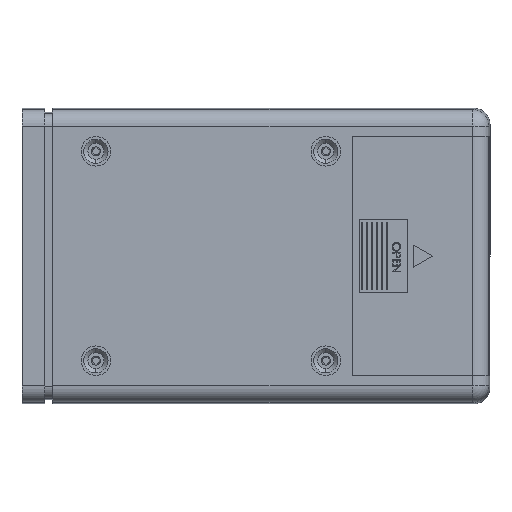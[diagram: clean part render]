
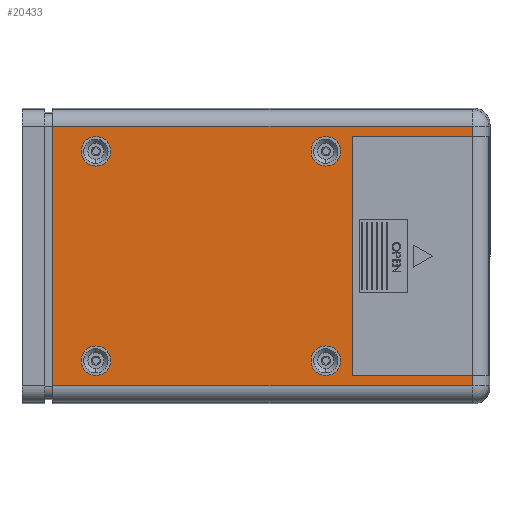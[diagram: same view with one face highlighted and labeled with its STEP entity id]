
A CAD part, front view. The second image highlights one B-rep face of the part: STEP entity #20433.
In plain terms, the highlighted planar face has unit normal (0, -1, 0).
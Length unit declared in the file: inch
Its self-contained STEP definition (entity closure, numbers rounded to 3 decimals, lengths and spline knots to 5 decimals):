
#333 = ORIENTED_EDGE ( 'NONE', *, *, #9301, .F. ) ;
#417 = PLANE ( 'NONE',  #11819 ) ;
#1082 = CARTESIAN_POINT ( 'NONE',  ( 2.07336, -0.66142, 1.24659 ) ) ;
#1308 = FACE_BOUND ( 'NONE', #7007, .T. ) ;
#1413 = ORIENTED_EDGE ( 'NONE', *, *, #1891, .F. ) ;
#1483 = DIRECTION ( 'NONE',  ( 0., -1., 0. ) ) ;
#1677 = VERTEX_POINT ( 'NONE', #3377 ) ;
#1692 = CARTESIAN_POINT ( 'NONE',  ( 0.66929, -0.66142, -1.00394 ) ) ;
#1707 = EDGE_CURVE ( 'NONE', #6757, #1677, #7609, .T. ) ;
#1710 = EDGE_CURVE ( 'NONE', #12059, #4685, #16691, .T. ) ;
#1713 = LINE ( 'NONE', #9296, #20688 ) ;
#1741 = EDGE_CURVE ( 'NONE', #3199, #7045, #21006, .T. ) ;
#1775 = EDGE_CURVE ( 'NONE', #6663, #9970, #15554, .T. ) ;
#1784 = CARTESIAN_POINT ( 'NONE',  ( 0.66929, -0.66142, -1.14567 ) ) ;
#1805 = EDGE_CURVE ( 'NONE', #22562, #20816, #14361, .T. ) ;
#1811 = EDGE_CURVE ( 'NONE', #20816, #12888, #23594, .T. ) ;
#1845 = EDGE_CURVE ( 'NONE', #12888, #21495, #13167, .T. ) ;
#1886 = EDGE_CURVE ( 'NONE', #21495, #14177, #7340, .T. ) ;
#1891 = EDGE_CURVE ( 'NONE', #11664, #14177, #1713, .T. ) ;
#1997 = EDGE_CURVE ( 'NONE', #23829, #11664, #8769, .T. ) ;
#2001 = EDGE_CURVE ( 'NONE', #10120, #23829, #17833, .T. ) ;
#2029 = EDGE_CURVE ( 'NONE', #10120, #22562, #2591, .T. ) ;
#2176 = CARTESIAN_POINT ( 'NONE',  ( -1.94882, -0.66142, -1.24659 ) ) ;
#2357 = DIRECTION ( 'NONE',  ( 0., 1., 0. ) ) ;
#2416 = DIRECTION ( 'NONE',  ( -1., 0., 0. ) ) ;
#2571 = EDGE_CURVE ( 'NONE', #7045, #3199, #12024, .T. ) ;
#2591 = LINE ( 'NONE', #11628, #21579 ) ;
#2721 = DIRECTION ( 'NONE',  ( -1., 0., 0. ) ) ;
#3199 = VERTEX_POINT ( 'NONE', #9543 ) ;
#3377 = CARTESIAN_POINT ( 'NONE',  ( -1.53543, -0.66142, -0.8622 ) ) ;
#3563 = DIRECTION ( 'NONE',  ( 1., 0., 0. ) ) ;
#3604 = AXIS2_PLACEMENT_3D ( 'NONE', #18628, #7770, #20479 ) ;
#3614 = DIRECTION ( 'NONE',  ( 0., 0., -1. ) ) ;
#3803 = VECTOR ( 'NONE', #6204, 39.37008 ) ;
#4050 = CARTESIAN_POINT ( 'NONE',  ( 2.07336, -0.66142, -1.24659 ) ) ;
#4685 = VERTEX_POINT ( 'NONE', #6506 ) ;
#5239 = AXIS2_PLACEMENT_3D ( 'NONE', #1692, #14553, #3614 ) ;
#5681 = CARTESIAN_POINT ( 'NONE',  ( 2.07336, -0.66142, 1.14764 ) ) ;
#5786 = ORIENTED_EDGE ( 'NONE', *, *, #1845, .T. ) ;
#5829 = FACE_OUTER_BOUND ( 'NONE', #19785, .T. ) ;
#6027 = AXIS2_PLACEMENT_3D ( 'NONE', #9125, #21875, #10884 ) ;
#6115 = ORIENTED_EDGE ( 'NONE', *, *, #2571, .F. ) ;
#6204 = DIRECTION ( 'NONE',  ( 0., 0., -1. ) ) ;
#6458 = AXIS2_PLACEMENT_3D ( 'NONE', #9695, #22468, #11471 ) ;
#6494 = CARTESIAN_POINT ( 'NONE',  ( -2.24409, -0.66142, 1.24659 ) ) ;
#6506 = CARTESIAN_POINT ( 'NONE',  ( 0.66929, -0.66142, -0.8622 ) ) ;
#6663 = VERTEX_POINT ( 'NONE', #16014 ) ;
#6757 = VERTEX_POINT ( 'NONE', #23842 ) ;
#6834 = CARTESIAN_POINT ( 'NONE',  ( 0.66929, -0.66142, 1.14567 ) ) ;
#7007 = EDGE_LOOP ( 'NONE', ( #18952, #11364 ) ) ;
#7045 = VERTEX_POINT ( 'NONE', #21423 ) ;
#7340 = LINE ( 'NONE', #23822, #11482 ) ;
#7452 = ORIENTED_EDGE ( 'NONE', *, *, #1997, .F. ) ;
#7609 = CIRCLE ( 'NONE', #6027, 0.14173 ) ;
#7770 = DIRECTION ( 'NONE',  ( 0., -1., 0. ) ) ;
#8131 = ORIENTED_EDGE ( 'NONE', *, *, #1741, .F. ) ;
#8303 = CARTESIAN_POINT ( 'NONE',  ( -1.94882, -0.66142, 0. ) ) ;
#8493 = VECTOR ( 'NONE', #3563, 39.37008 ) ;
#8769 = LINE ( 'NONE', #18763, #3803 ) ;
#9043 = VECTOR ( 'NONE', #2721, 39.37008 ) ;
#9050 = ORIENTED_EDGE ( 'NONE', *, *, #1805, .T. ) ;
#9125 = CARTESIAN_POINT ( 'NONE',  ( -1.53543, -0.66142, -1.00394 ) ) ;
#9138 = EDGE_CURVE ( 'NONE', #9970, #6663, #22551, .T. ) ;
#9170 = CARTESIAN_POINT ( 'NONE',  ( 0.66929, -0.66142, -1.00394 ) ) ;
#9185 = ORIENTED_EDGE ( 'NONE', *, *, #1886, .T. ) ;
#9216 = EDGE_CURVE ( 'NONE', #4685, #12059, #20839, .T. ) ;
#9296 = CARTESIAN_POINT ( 'NONE',  ( 0.9252, -0.66142, -1.14764 ) ) ;
#9301 = EDGE_CURVE ( 'NONE', #1677, #6757, #14784, .T. ) ;
#9377 = CARTESIAN_POINT ( 'NONE',  ( -1.53543, -0.66142, -1.00394 ) ) ;
#9543 = CARTESIAN_POINT ( 'NONE',  ( -1.53543, -0.66142, 0.8622 ) ) ;
#9695 = CARTESIAN_POINT ( 'NONE',  ( -1.53543, -0.66142, 1.00394 ) ) ;
#9715 = AXIS2_PLACEMENT_3D ( 'NONE', #20788, #9847, #22632 ) ;
#9847 = DIRECTION ( 'NONE',  ( 0., -1., 0. ) ) ;
#9970 = VERTEX_POINT ( 'NONE', #6834 ) ;
#10120 = VERTEX_POINT ( 'NONE', #5681 ) ;
#10584 = FACE_BOUND ( 'NONE', #16934, .T. ) ;
#10884 = DIRECTION ( 'NONE',  ( 0., 0., -1. ) ) ;
#10921 = DIRECTION ( 'NONE',  ( 0., 0., -1. ) ) ;
#11140 = DIRECTION ( 'NONE',  ( 0., 0., -1. ) ) ;
#11364 = ORIENTED_EDGE ( 'NONE', *, *, #9216, .F. ) ;
#11471 = DIRECTION ( 'NONE',  ( 0., 0., -1. ) ) ;
#11482 = VECTOR ( 'NONE', #20185, 39.37008 ) ;
#11628 = CARTESIAN_POINT ( 'NONE',  ( 2.07336, -0.66142, 1.4 ) ) ;
#11664 = VERTEX_POINT ( 'NONE', #21279 ) ;
#11682 = FACE_BOUND ( 'NONE', #23770, .T. ) ;
#11819 = AXIS2_PLACEMENT_3D ( 'NONE', #16964, #2357, #15206 ) ;
#11911 = ORIENTED_EDGE ( 'NONE', *, *, #1775, .F. ) ;
#12024 = CIRCLE ( 'NONE', #3604, 0.14173 ) ;
#12059 = VERTEX_POINT ( 'NONE', #1784 ) ;
#12285 = ORIENTED_EDGE ( 'NONE', *, *, #2029, .T. ) ;
#12495 = CARTESIAN_POINT ( 'NONE',  ( 0.66929, -0.66142, 1.00394 ) ) ;
#12738 = ORIENTED_EDGE ( 'NONE', *, *, #1707, .F. ) ;
#12888 = VERTEX_POINT ( 'NONE', #2176 ) ;
#13167 = LINE ( 'NONE', #13657, #8493 ) ;
#13354 = CARTESIAN_POINT ( 'NONE',  ( 0.9252, -0.66142, 1.14764 ) ) ;
#13657 = CARTESIAN_POINT ( 'NONE',  ( 2.22677, -0.66142, -1.24659 ) ) ;
#14177 = VERTEX_POINT ( 'NONE', #16274 ) ;
#14345 = DIRECTION ( 'NONE',  ( 0., 0., -1. ) ) ;
#14356 = AXIS2_PLACEMENT_3D ( 'NONE', #9170, #21905, #10921 ) ;
#14361 = LINE ( 'NONE', #6494, #9043 ) ;
#14385 = AXIS2_PLACEMENT_3D ( 'NONE', #9377, #22122, #11140 ) ;
#14553 = DIRECTION ( 'NONE',  ( 0., -1., 0. ) ) ;
#14767 = CARTESIAN_POINT ( 'NONE',  ( 0.9252, -0.66142, 1.14764 ) ) ;
#14784 = CIRCLE ( 'NONE', #14385, 0.14173 ) ;
#14953 = ORIENTED_EDGE ( 'NONE', *, *, #1811, .T. ) ;
#15031 = AXIS2_PLACEMENT_3D ( 'NONE', #12495, #1483, #14345 ) ;
#15206 = DIRECTION ( 'NONE',  ( 0., 0., 1. ) ) ;
#15448 = FACE_BOUND ( 'NONE', #22323, .T. ) ;
#15554 = CIRCLE ( 'NONE', #9715, 0.14173 ) ;
#15577 = DIRECTION ( 'NONE',  ( 0., 0., -1. ) ) ;
#16014 = CARTESIAN_POINT ( 'NONE',  ( 0.66929, -0.66142, 0.8622 ) ) ;
#16274 = CARTESIAN_POINT ( 'NONE',  ( 2.07336, -0.66142, -1.14764 ) ) ;
#16511 = DIRECTION ( 'NONE',  ( 1., 0., 0. ) ) ;
#16691 = CIRCLE ( 'NONE', #5239, 0.14173 ) ;
#16934 = EDGE_LOOP ( 'NONE', ( #11911, #20570 ) ) ;
#16964 = CARTESIAN_POINT ( 'NONE',  ( 0., -0.66142, 0. ) ) ;
#17833 = LINE ( 'NONE', #13354, #18375 ) ;
#18375 = VECTOR ( 'NONE', #2416, 39.37008 ) ;
#18628 = CARTESIAN_POINT ( 'NONE',  ( -1.53543, -0.66142, 1.00394 ) ) ;
#18763 = CARTESIAN_POINT ( 'NONE',  ( 0.9252, -0.66142, 1.14764 ) ) ;
#18952 = ORIENTED_EDGE ( 'NONE', *, *, #1710, .F. ) ;
#19785 = EDGE_LOOP ( 'NONE', ( #9050, #14953, #5786, #9185, #1413, #7452, #22536, #12285 ) ) ;
#20185 = DIRECTION ( 'NONE',  ( 0., 0., 1. ) ) ;
#20433 = ADVANCED_FACE ( 'NONE', ( #15448, #1308, #11682, #10584, #5829 ), #417, .F. ) ;
#20479 = DIRECTION ( 'NONE',  ( 0., 0., -1. ) ) ;
#20570 = ORIENTED_EDGE ( 'NONE', *, *, #9138, .F. ) ;
#20688 = VECTOR ( 'NONE', #16511, 39.37008 ) ;
#20788 = CARTESIAN_POINT ( 'NONE',  ( 0.66929, -0.66142, 1.00394 ) ) ;
#20816 = VERTEX_POINT ( 'NONE', #23779 ) ;
#20839 = CIRCLE ( 'NONE', #14356, 0.14173 ) ;
#21006 = CIRCLE ( 'NONE', #6458, 0.14173 ) ;
#21279 = CARTESIAN_POINT ( 'NONE',  ( 0.9252, -0.66142, -1.14764 ) ) ;
#21423 = CARTESIAN_POINT ( 'NONE',  ( -1.53543, -0.66142, 1.14567 ) ) ;
#21495 = VERTEX_POINT ( 'NONE', #4050 ) ;
#21579 = VECTOR ( 'NONE', #22636, 39.37008 ) ;
#21875 = DIRECTION ( 'NONE',  ( 0., -1., 0. ) ) ;
#21905 = DIRECTION ( 'NONE',  ( 0., -1., 0. ) ) ;
#22122 = DIRECTION ( 'NONE',  ( 0., -1., 0. ) ) ;
#22323 = EDGE_LOOP ( 'NONE', ( #12738, #333 ) ) ;
#22468 = DIRECTION ( 'NONE',  ( 0., -1., 0. ) ) ;
#22536 = ORIENTED_EDGE ( 'NONE', *, *, #2001, .F. ) ;
#22551 = CIRCLE ( 'NONE', #15031, 0.14173 ) ;
#22562 = VERTEX_POINT ( 'NONE', #1082 ) ;
#22632 = DIRECTION ( 'NONE',  ( 0., 0., -1. ) ) ;
#22636 = DIRECTION ( 'NONE',  ( 0., 0., 1. ) ) ;
#23014 = VECTOR ( 'NONE', #15577, 39.37008 ) ;
#23594 = LINE ( 'NONE', #8303, #23014 ) ;
#23770 = EDGE_LOOP ( 'NONE', ( #8131, #6115 ) ) ;
#23779 = CARTESIAN_POINT ( 'NONE',  ( -1.94882, -0.66142, 1.24659 ) ) ;
#23822 = CARTESIAN_POINT ( 'NONE',  ( 2.07336, -0.66142, 1.4 ) ) ;
#23829 = VERTEX_POINT ( 'NONE', #14767 ) ;
#23842 = CARTESIAN_POINT ( 'NONE',  ( -1.53543, -0.66142, -1.14567 ) ) ;
